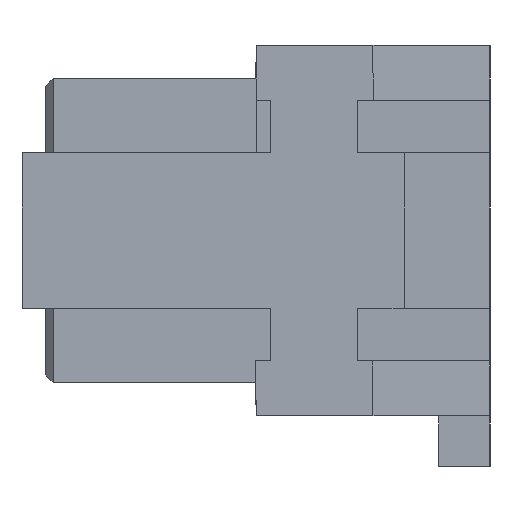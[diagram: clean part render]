
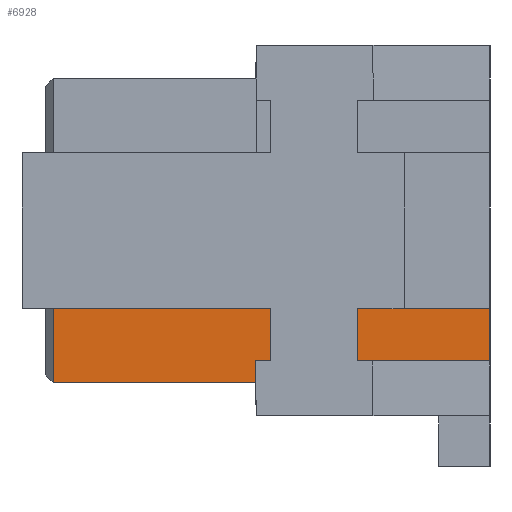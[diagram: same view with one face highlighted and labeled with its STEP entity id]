
A CAD part, left-side view. The second image highlights one B-rep face of the part: STEP entity #6928.
In plain terms, the highlighted planar face has unit normal (-1, 0, 0).
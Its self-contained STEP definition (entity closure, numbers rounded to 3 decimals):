
#598 = LINE ( 'NONE', #6279, #10237 ) ;
#895 = DIRECTION ( 'NONE',  ( 0., -1., 0. ) ) ;
#1771 = ORIENTED_EDGE ( 'NONE', *, *, #32673, .F. ) ;
#1993 = DIRECTION ( 'NONE',  ( 0., 1., 0. ) ) ;
#2007 = VECTOR ( 'NONE', #895, 1000. ) ;
#2012 = CARTESIAN_POINT ( 'NONE',  ( -8.62, -0.69, -9.956 ) ) ;
#2562 = CARTESIAN_POINT ( 'NONE',  ( -8.62, -0.69, -8.761 ) ) ;
#2782 = CARTESIAN_POINT ( 'NONE',  ( -8.62, -0.69, -8.886 ) ) ;
#3494 = CARTESIAN_POINT ( 'NONE',  ( -8.62, -3.69, -8.886 ) ) ;
#3637 = LINE ( 'NONE', #14825, #26902 ) ;
#4277 = LINE ( 'NONE', #9765, #31626 ) ;
#4434 = LINE ( 'NONE', #6617, #35326 ) ;
#4481 = ORIENTED_EDGE ( 'NONE', *, *, #10691, .T. ) ;
#4807 = EDGE_CURVE ( 'NONE', #33960, #26361, #598, .T. ) ;
#4904 = DIRECTION ( 'NONE',  ( 0., 0., 1. ) ) ;
#5054 = CARTESIAN_POINT ( 'NONE',  ( -8.62, 2.811, -8.886 ) ) ;
#6222 = VECTOR ( 'NONE', #33068, 1000. ) ;
#6279 = CARTESIAN_POINT ( 'NONE',  ( -8.62, -0.69, -10.236 ) ) ;
#6484 = VERTEX_POINT ( 'NONE', #3494 ) ;
#6617 = CARTESIAN_POINT ( 'NONE',  ( -8.62, 2.811, -7.686 ) ) ;
#6732 = AXIS2_PLACEMENT_3D ( 'NONE', #35146, #10221, #4904 ) ;
#6928 = ADVANCED_FACE ( 'NONE', ( #35318 ), #26516, .F. ) ;
#7292 = ORIENTED_EDGE ( 'NONE', *, *, #9461, .F. ) ;
#7638 = DIRECTION ( 'NONE',  ( 0., -1., 0. ) ) ;
#7996 = VERTEX_POINT ( 'NONE', #2782 ) ;
#8163 = CARTESIAN_POINT ( 'NONE',  ( -8.62, -3.69, -8.886 ) ) ;
#8660 = VERTEX_POINT ( 'NONE', #10718 ) ;
#9034 = EDGE_LOOP ( 'NONE', ( #18358, #14205, #15392, #28023, #7292, #1771, #16663, #9848, #26873, #31294, #4481, #33788 ) ) ;
#9209 = DIRECTION ( 'NONE',  ( 0., 1., 0. ) ) ;
#9461 = EDGE_CURVE ( 'NONE', #8660, #17311, #27039, .T. ) ;
#9543 = DIRECTION ( 'NONE',  ( 0., -1., 0. ) ) ;
#9765 = CARTESIAN_POINT ( 'NONE',  ( -8.62, -0.69, -8.761 ) ) ;
#9848 = ORIENTED_EDGE ( 'NONE', *, *, #22059, .T. ) ;
#10221 = DIRECTION ( 'NONE',  ( 1., 0., 0. ) ) ;
#10237 = VECTOR ( 'NONE', #9209, 1000. ) ;
#10562 = LINE ( 'NONE', #8163, #24264 ) ;
#10691 = EDGE_CURVE ( 'NONE', #18260, #17066, #35339, .T. ) ;
#10718 = CARTESIAN_POINT ( 'NONE',  ( -8.62, -0.69, -9.286 ) ) ;
#11458 = VERTEX_POINT ( 'NONE', #24583 ) ;
#12770 = VERTEX_POINT ( 'NONE', #2012 ) ;
#14205 = ORIENTED_EDGE ( 'NONE', *, *, #27387, .F. ) ;
#14664 = CARTESIAN_POINT ( 'NONE',  ( -8.62, 2.811, -9.956 ) ) ;
#14825 = CARTESIAN_POINT ( 'NONE',  ( -8.62, -0.69, -5.911 ) ) ;
#14830 = VECTOR ( 'NONE', #7638, 1000. ) ;
#15392 = ORIENTED_EDGE ( 'NONE', *, *, #19584, .T. ) ;
#15470 = VECTOR ( 'NONE', #1993, 1000. ) ;
#15866 = EDGE_CURVE ( 'NONE', #7996, #6484, #30151, .T. ) ;
#16050 = DIRECTION ( 'NONE',  ( 0., 0., 1. ) ) ;
#16540 = DIRECTION ( 'NONE',  ( 0., 0., 1. ) ) ;
#16575 = CARTESIAN_POINT ( 'NONE',  ( -8.62, -3.69, -9.286 ) ) ;
#16663 = ORIENTED_EDGE ( 'NONE', *, *, #15866, .T. ) ;
#17066 = VERTEX_POINT ( 'NONE', #31618 ) ;
#17311 = VERTEX_POINT ( 'NONE', #16575 ) ;
#17779 = DIRECTION ( 'NONE',  ( 0., 0., -1. ) ) ;
#18260 = VERTEX_POINT ( 'NONE', #2562 ) ;
#18358 = ORIENTED_EDGE ( 'NONE', *, *, #4807, .F. ) ;
#19260 = EDGE_CURVE ( 'NONE', #11458, #29498, #4434, .T. ) ;
#19584 = EDGE_CURVE ( 'NONE', #12770, #33860, #31675, .T. ) ;
#20739 = CARTESIAN_POINT ( 'NONE',  ( -8.62, -3.69, -7.686 ) ) ;
#20809 = LINE ( 'NONE', #27533, #33295 ) ;
#22059 = EDGE_CURVE ( 'NONE', #6484, #29498, #10562, .T. ) ;
#22502 = VECTOR ( 'NONE', #26751, 1000. ) ;
#23138 = DIRECTION ( 'NONE',  ( 0., 0., -1. ) ) ;
#23456 = LINE ( 'NONE', #31696, #27508 ) ;
#23868 = CARTESIAN_POINT ( 'NONE',  ( -8.62, -0.69, -10.236 ) ) ;
#24179 = LINE ( 'NONE', #35548, #22502 ) ;
#24264 = VECTOR ( 'NONE', #16050, 1000. ) ;
#24340 = CARTESIAN_POINT ( 'NONE',  ( -8.62, 1.91, -10.236 ) ) ;
#24583 = CARTESIAN_POINT ( 'NONE',  ( -8.62, -0.69, -7.686 ) ) ;
#24739 = EDGE_CURVE ( 'NONE', #26361, #17066, #24179, .T. ) ;
#26361 = VERTEX_POINT ( 'NONE', #24340 ) ;
#26516 = PLANE ( 'NONE',  #6732 ) ;
#26714 = EDGE_CURVE ( 'NONE', #33860, #17311, #20809, .T. ) ;
#26751 = DIRECTION ( 'NONE',  ( 0., 0., 1. ) ) ;
#26873 = ORIENTED_EDGE ( 'NONE', *, *, #19260, .F. ) ;
#26902 = VECTOR ( 'NONE', #34601, 1000. ) ;
#27039 = LINE ( 'NONE', #29795, #14830 ) ;
#27387 = EDGE_CURVE ( 'NONE', #12770, #33960, #3637, .T. ) ;
#27508 = VECTOR ( 'NONE', #17779, 1000. ) ;
#27533 = CARTESIAN_POINT ( 'NONE',  ( -8.62, -3.69, -9.286 ) ) ;
#28023 = ORIENTED_EDGE ( 'NONE', *, *, #26714, .T. ) ;
#29498 = VERTEX_POINT ( 'NONE', #20739 ) ;
#29795 = CARTESIAN_POINT ( 'NONE',  ( -8.62, 2.811, -9.286 ) ) ;
#30151 = LINE ( 'NONE', #5054, #6222 ) ;
#31294 = ORIENTED_EDGE ( 'NONE', *, *, #33963, .T. ) ;
#31618 = CARTESIAN_POINT ( 'NONE',  ( -8.62, 1.91, -8.761 ) ) ;
#31626 = VECTOR ( 'NONE', #23138, 1000. ) ;
#31675 = LINE ( 'NONE', #14664, #2007 ) ;
#31696 = CARTESIAN_POINT ( 'NONE',  ( -8.62, -0.69, -5.911 ) ) ;
#32673 = EDGE_CURVE ( 'NONE', #7996, #8660, #23456, .T. ) ;
#33068 = DIRECTION ( 'NONE',  ( 0., -1., 0. ) ) ;
#33295 = VECTOR ( 'NONE', #16540, 1000. ) ;
#33419 = CARTESIAN_POINT ( 'NONE',  ( -8.62, -3.69, -9.956 ) ) ;
#33788 = ORIENTED_EDGE ( 'NONE', *, *, #24739, .F. ) ;
#33860 = VERTEX_POINT ( 'NONE', #33419 ) ;
#33960 = VERTEX_POINT ( 'NONE', #23868 ) ;
#33963 = EDGE_CURVE ( 'NONE', #11458, #18260, #4277, .T. ) ;
#34601 = DIRECTION ( 'NONE',  ( 0., 0., -1. ) ) ;
#35146 = CARTESIAN_POINT ( 'NONE',  ( -8.62, -0.69, -5.911 ) ) ;
#35169 = CARTESIAN_POINT ( 'NONE',  ( -8.62, -12.323, -8.761 ) ) ;
#35318 = FACE_OUTER_BOUND ( 'NONE', #9034, .T. ) ;
#35326 = VECTOR ( 'NONE', #9543, 1000. ) ;
#35339 = LINE ( 'NONE', #35169, #15470 ) ;
#35548 = CARTESIAN_POINT ( 'NONE',  ( -8.62, 1.91, -5.911 ) ) ;
